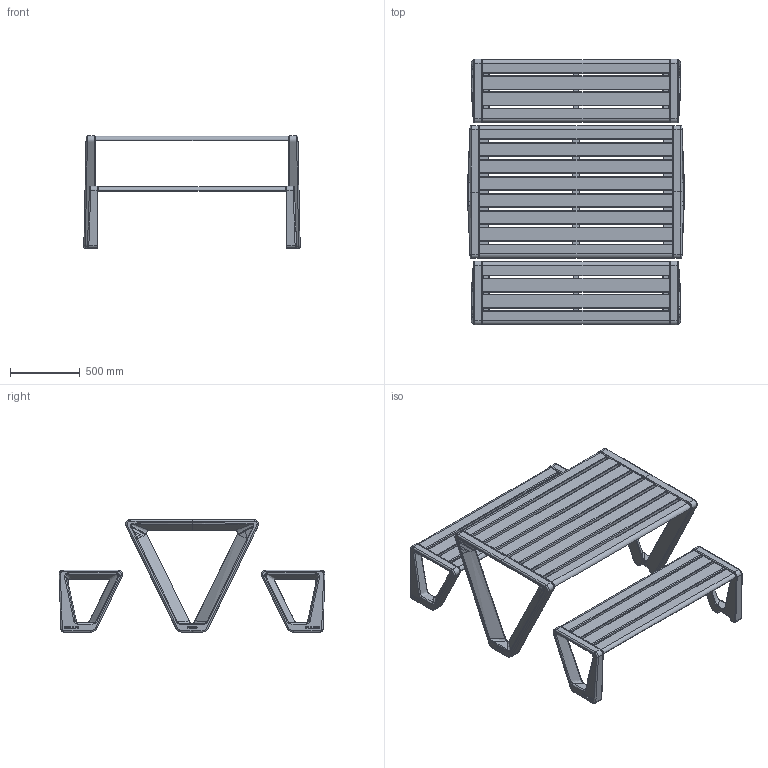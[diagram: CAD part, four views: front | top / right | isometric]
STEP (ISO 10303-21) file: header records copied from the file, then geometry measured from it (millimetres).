
FILE_DESCRIPTION(/* description */ (''),/* implementation_level */ '2;1');
FILE_NAME(/* name */ 'TBE143.00 SIMPLE.step',/* time_stamp */ '2023-09-08T10:44:39+02:00',/* author */ (''),/* organization */ (''),/* preprocessor_version */ 'ST-DEVELOPER v20',/* originating_system */ 'Autodesk Translation Framework v12.9.0.99',/* authorisation */ '');
FILE_SCHEMA (('AUTOMOTIVE_DESIGN { 1 0 10303 214 3 1 1 }'));
Products named in the file (29): TBE143.00 SIMPLE; TBE142.01_uproszczony; TBE142.01.02_uproszczony; TBE142.01.03.D; TBE142.01.04.D; TBE142.01.01_uproszczony; TBE142.00.02; L.BE.11.150; lewy_uproszczona; LBE140.03.01; LBE140.03.01(Mirror); LBE140.02.02_uproszczone(Mirror); prawy_uproszczone; LBE140.02.01; LBE140.02.02_uproszczone; LBE140.02.01(Mirror); LBE140.02.02_uproszczone(Mirror) (1); siedzisko.150_uproszczony; LBE140.01.02; siedzisko.150.D1; siedzisko.150.D2; LBE140.01.01_uproszczony; siedzisko.150.D2(Mirror); siedzisko.150.D2(Mirror) (1); siedzisko.150.D1(Mirror); siedzisko.150.D1(Mirror) (1); LBE140.01.02(Mirror); LBE140.01.01_uproszczony(Mirror); LBE140.01.01_uproszczony(Mirror) (1)
Assembly tree (40 placements, depth 4):
  TBE143.00 SIMPLE
    TBE142.01_uproszczony
      TBE142.01.01_uproszczony  x2
      TBE142.01.02_uproszczony
      TBE142.01.03.D  x2
      TBE142.01.04.D  x6
    TBE142.00.02  x2
    L.BE.11.150
      lewy_uproszczona
        LBE140.03.01
        LBE140.02.02_uproszczone
        LBE140.03.01(Mirror)
        LBE140.02.02_uproszczone(Mirror)
      prawy_uproszczone
        LBE140.02.01
        LBE140.02.02_uproszczone
        LBE140.02.01(Mirror)
        LBE140.02.02_uproszczone(Mirror) (1)
      siedzisko.150_uproszczony
        LBE140.01.01_uproszczony  x2
        LBE140.01.02
        siedzisko.150.D1  x2
        siedzisko.150.D2  x2
        siedzisko.150.D2(Mirror)
        siedzisko.150.D2(Mirror) (1)
        siedzisko.150.D1(Mirror)
        siedzisko.150.D1(Mirror) (1)
        LBE140.01.02(Mirror)
        LBE140.01.01_uproszczony(Mirror)
        LBE140.01.01_uproszczony(Mirror) (1)
Bounding box: 1553.44 x 1909.34 x 805.65 mm (x, y, z)
Volume: 108713831.8 mm3; surface area: 9191553.7 mm2
Topology: 35 solids, 49 shells, 3222 faces, 8570 edges, 5478 vertices
Faces by surface type: plane 2726, bspline 276, cylinder 196, torus 24
Full cylindrical faces by diameter (mm): 15 x14
Entity records: 103416 total; most frequent: CARTESIAN_POINT 44733, ORIENTED_EDGE 12866, DIRECTION 10645, EDGE_CURVE 6433, LINE 5403, VECTOR 5403, VERTEX_POINT 4163, AXIS2_PLACEMENT_3D 2621
